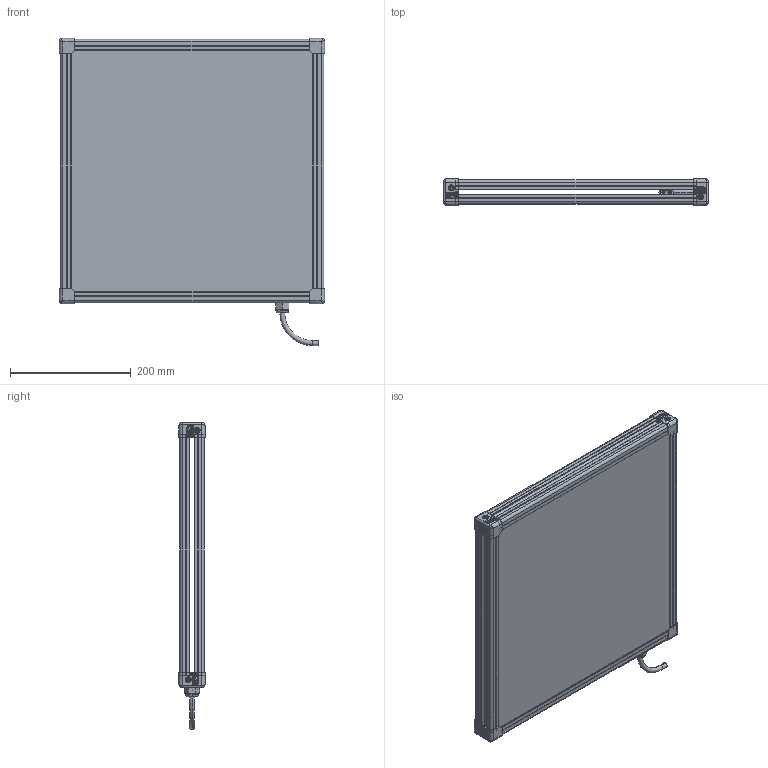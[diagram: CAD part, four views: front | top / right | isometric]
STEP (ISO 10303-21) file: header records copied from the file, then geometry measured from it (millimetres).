
FILE_DESCRIPTION (( 'STEP AP214' ), '1' );
FILE_NAME ('EFFI-BL-400-400-XXX.STEP', '2018-06-06T07:20:08', ( '' ), ( '' ), 'SwSTEP 2.0', 'SolidWorks 2018', '' );
FILE_SCHEMA (( 'AUTOMOTIVE_DESIGN' ));
Length unit declared in the file: millimetre
Products named in the file (1): EFFI-BL-400-400-XXX
Bounding box: 439.5 x 43.2 x 509.05 mm (x, y, z)
Surface area: 524113.6 mm2 (no closed solid volume)
Topology: 0 solids, 40 shells, 671 faces, 4429 edges, 3689 vertices
Faces by surface type: plane 469, cylinder 101, bspline 97, torus 4
Entity records: 59386 total; most frequent: CARTESIAN_POINT 20814, ORIENTED_EDGE 5487, DIRECTION 5415, EDGE_CURVE 4421, VERTEX_POINT 3689, VECTOR 3541, LINE 3541, EDGE_LOOP 1010
